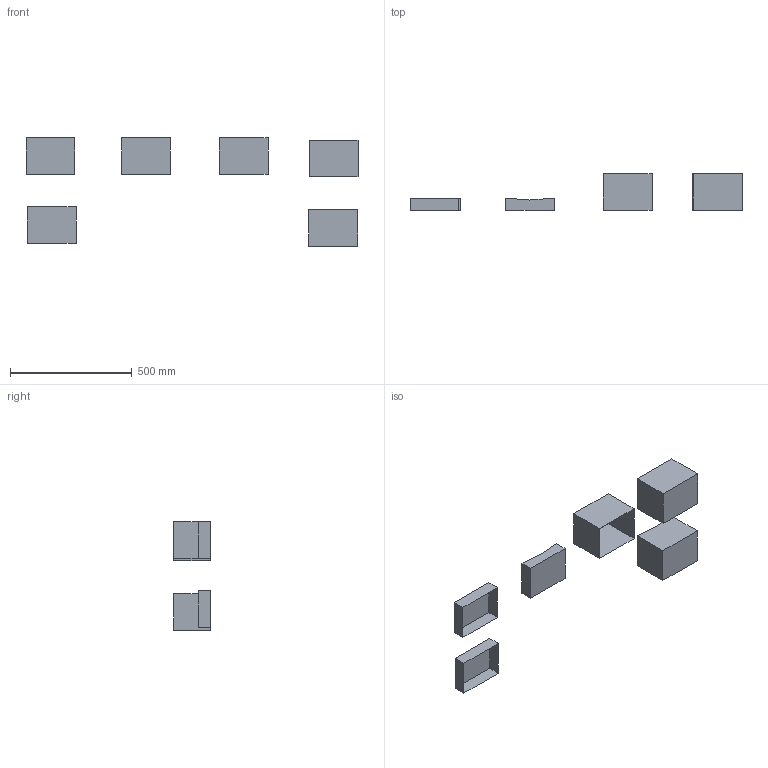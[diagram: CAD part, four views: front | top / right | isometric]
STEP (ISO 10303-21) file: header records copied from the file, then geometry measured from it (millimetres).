
FILE_DESCRIPTION (( 'STEP AP203' ), '1' );
FILE_NAME ('20.1.STEP', '2025-10-28T21:53:32', ( '' ), ( '' ), 'SwSTEP 2.0', 'SolidWorks 2025', '' );
FILE_SCHEMA (( 'CONFIG_CONTROL_DESIGN' ));
Length unit declared in the file: millimetre
Products named in the file (1): 20.1
Bounding box: 1361.12 x 150 x 444.38 mm (x, y, z)
Surface area: 686755.9 mm2 (no closed solid volume)
Topology: 0 solids, 6 shells, 35 faces, 78 edges, 52 vertices
Faces by surface type: plane 35
Entity records: 1008 total; most frequent: CARTESIAN_POINT 166, DIRECTION 150, ORIENTED_EDGE 144, VECTOR 78, LINE 78, EDGE_CURVE 78, VERTEX_POINT 52, AXIS2_PLACEMENT_3D 36
